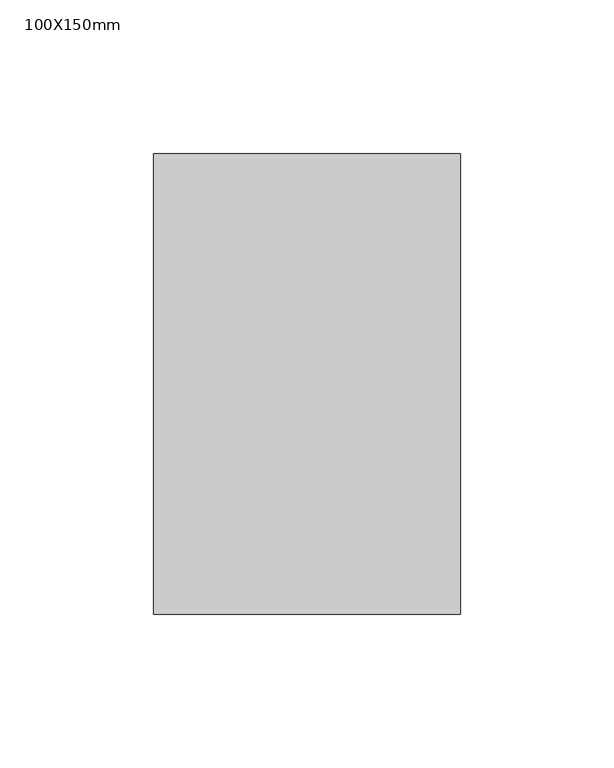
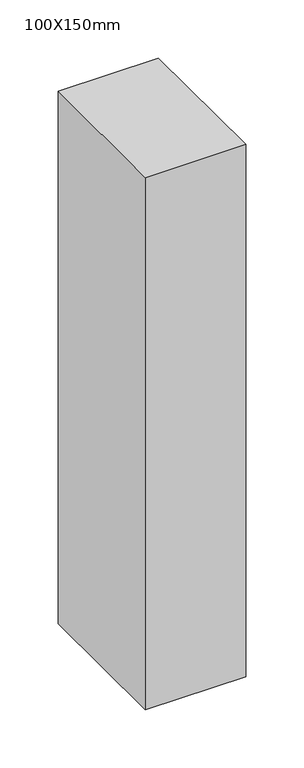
"""IFC4 building model written with IfcOpenShell, lengths in millimetres: member geometry, 矩形竖梃 : 100X150mm."""

import ifcopenshell
import ifcopenshell.guid

model = None  # the IFC model being written
_history = None  # IfcOwnerHistory: only IFC2X3 demands one
_inside = {}  # id of a spatial element -> (the spatial element, [elements in it])
_under = {}  # id of a project, library or spatial element -> (it, [spatial elements below it])
_declared = {}  # id of a project -> (the project, [libraries it declares])
_typed = {}  # id of a type object -> (the type object, [elements of that type])
_made_of = {}  # id of a material, layer set ... -> (it, [elements and type objects made of it])


def new_model(schema):
    """Start an empty IFC model of exactly this schema.

    Asked for "IFC4X3", IfcOpenShell would pick the latest addendum, in which some entities
    have other attributes; the version numbers below select the first issue.
    IFC2X3 requires an IfcOwnerHistory on every rooted entity: one is made here for all.
    """
    global model, _history
    if schema == "IFC4X3":
        model = ifcopenshell.file(schema_version=(4, 3, 0, 0))
    else:
        model = ifcopenshell.file(schema=schema)
    _inside.clear()
    _under.clear()
    _declared.clear()
    _typed.clear()
    _made_of.clear()
    _history = None
    if model.schema == "IFC2X3":
        org = make("IfcOrganization", Name="unknown")
        user = make(
            "IfcPersonAndOrganization",
            ThePerson=make("IfcPerson", FamilyName="unknown"),
            TheOrganization=org,
        )
        app = make(
            "IfcApplication",
            ApplicationDeveloper=org,
            Version="unknown",
            ApplicationFullName="unknown",
            ApplicationIdentifier="unknown",
        )
        _history = make(
            "IfcOwnerHistory",
            OwningUser=user,
            OwningApplication=app,
            ChangeAction="ADDED",
            CreationDate=0,
        )
    return model


def make(cls, **values):
    """One entity of the class cls with the attributes given. An attribute that is None is left unset."""
    return model.create_entity(
        cls, **{name: value for name, value in values.items() if value is not None}
    )


def rooted(cls, **values):
    """An entity with a GlobalId (a new one), such as an element, a storey or a relation."""
    return make(cls, GlobalId=ifcopenshell.guid.new(), OwnerHistory=_history, **values)


def si_unit(unit_type, name, prefix=None):
    """IfcSIUnit, for example si_unit("LENGTHUNIT", "METRE", prefix="MILLI")."""
    return make("IfcSIUnit", UnitType=unit_type, Prefix=prefix, Name=name)


def assignment(units):
    """IfcUnitAssignment: the units of a project."""
    return None if units is None else make("IfcUnitAssignment", Units=units)


def point(xyz):
    """IfcCartesianPoint."""
    return None if xyz is None else make("IfcCartesianPoint", Coordinates=xyz)


def direction(xyz):
    """IfcDirection."""
    return None if xyz is None else make("IfcDirection", DirectionRatios=xyz)


def frame(location, z_axis=None, x_axis=None):
    """IfcAxis2Placement3D, a coordinate frame: its origin and axes. An axis left out is left unset."""
    return make(
        "IfcAxis2Placement3D",
        Location=point(location),
        Axis=direction(z_axis),
        RefDirection=direction(x_axis),
    )


def origin():
    """The frame at (0, 0, 0) with its axes left unset."""
    return frame((0.0, 0.0, 0.0))


def place(relative_to, where):
    """IfcLocalPlacement: puts the frame where relative to a parent placement (None: the world)."""
    return make(
        "IfcLocalPlacement", PlacementRelTo=relative_to, RelativePlacement=where
    )


def context(
    kind, dimensions, precision=None, world=None, true_north=None, identifier=None
):
    """IfcGeometricRepresentationContext, for example the 3D "Model" context."""
    return make(
        "IfcGeometricRepresentationContext",
        ContextIdentifier=identifier,
        ContextType=kind,
        CoordinateSpaceDimension=dimensions,
        Precision=precision,
        WorldCoordinateSystem=world,
        TrueNorth=true_north,
    )


def project(units=None, contexts=None):
    """IfcProject with its units and contexts."""
    return rooted(
        "IfcProject",
        Name="project",
        RepresentationContexts=contexts,
        UnitsInContext=assignment(units),
    )


def spatial(cls, under=None, at=None, **own):
    """A site, building, storey or space (cls), placed at a placement, below another one or the project."""
    s = rooted(cls, ObjectPlacement=at, **own)
    if under is not None:
        _under.setdefault(under.id(), (under, []))[1].append(s)
    return s


def polyline(points):
    """IfcPolyline through the points."""
    return make("IfcPolyline", Points=[point(p) for p in points])


def outline(outer, holes=None, kind="AREA"):
    """IfcArbitraryClosedProfileDef: a profile drawn as a closed curve; with holes, ...WithVoids."""
    if holes is None:
        return make("IfcArbitraryClosedProfileDef", ProfileType=kind, OuterCurve=outer)
    return make(
        "IfcArbitraryProfileDefWithVoids",
        ProfileType=kind,
        OuterCurve=outer,
        InnerCurves=holes,
    )


def extrude(swept, where, along, depth):
    """IfcExtrudedAreaSolid: the profile swept, set in the frame where, extruded along a direction by depth."""
    return make(
        "IfcExtrudedAreaSolid",
        SweptArea=swept,
        Position=where,
        ExtrudedDirection=direction(along),
        Depth=depth,
    )


def shape(context_of_items, identifier, shape_type, items):
    """IfcShapeRepresentation: the items that make up one representation, for example the "Body"."""
    return make(
        "IfcShapeRepresentation",
        ContextOfItems=context_of_items,
        RepresentationIdentifier=identifier,
        RepresentationType=shape_type,
        Items=items,
    )


def source(mapping_origin, context_of_items, identifier, shape_type, items):
    """IfcRepresentationMap: a shape defined once, which mapped items show again and again."""
    return make(
        "IfcRepresentationMap",
        MappingOrigin=mapping_origin,
        MappedRepresentation=shape(context_of_items, identifier, shape_type, items),
    )


def transform(
    local_origin,
    x_axis=None,
    y_axis=None,
    z_axis=None,
    scale=None,
    scale2=None,
    scale3=None,
    uniform=True,
):
    """IfcCartesianTransformationOperator3D, or its non-uniform kind. x_axis, y_axis, z_axis: its Axis1, 2, 3."""
    if uniform:
        return make(
            "IfcCartesianTransformationOperator3D",
            Axis1=direction(x_axis),
            Axis2=direction(y_axis),
            LocalOrigin=point(local_origin),
            Scale=scale,
            Axis3=direction(z_axis),
        )
    return make(
        "IfcCartesianTransformationOperator3DnonUniform",
        Axis1=direction(x_axis),
        Axis2=direction(y_axis),
        LocalOrigin=point(local_origin),
        Scale=scale,
        Axis3=direction(z_axis),
        Scale2=scale2,
        Scale3=scale3,
    )


def mapped(mapping_source, mapping_target):
    """IfcMappedItem: shows the shape of a source again, moved by a transform."""
    return make(
        "IfcMappedItem", MappingSource=mapping_source, MappingTarget=mapping_target
    )


def made_of(thing, what):
    """Note that an element or type object is made of a material, layer set ...; save() writes the relation."""
    if what is not None:
        _made_of.setdefault(what.id(), (what, []))[1].append(thing)
    return thing


def element(
    cls,
    number,
    at=None,
    inside=None,
    cuts=None,
    type_object=None,
    material=None,
    context=None,
    identifier="Body",
    shape_type=None,
    held_by="IfcProductDefinitionShape",
    body=None,
    shapes=None,
    **own,
):
    """One element of the class cls, such as IfcWall. Its Tag is "e" and its number.

    at: its placement. inside: the storey or other place that contains it. cuts: it is an
    opening in that element (IfcRelVoidsElement). A single representation is given by context,
    identifier, shape_type and body (its items); several are given by shapes. held_by: the class
    of the entity that holds the representations. save() writes the other relations.
    """
    e = rooted(cls, Tag="e%d" % number, ObjectPlacement=at, **own)
    if body is not None:
        shapes = [shape(context, identifier, shape_type, body)]
    if shapes is not None:
        e.Representation = make(held_by, Representations=shapes)
    if inside is not None:
        _inside.setdefault(inside.id(), (inside, []))[1].append(e)
    if cuts is not None:
        rooted(
            "IfcRelVoidsElement", RelatingBuildingElement=cuts, RelatedOpeningElement=e
        )
    if type_object is not None:
        _typed.setdefault(type_object.id(), (type_object, []))[1].append(e)
    return made_of(e, material)


def aggregate(whole, parts):
    """IfcRelAggregates: a whole, such as a stair, and the parts it consists of."""
    return rooted("IfcRelAggregates", RelatingObject=whole, RelatedObjects=parts)


def save(model, path):
    """Write the relations noted so far, then the file.

    IfcRelAggregates (storeys below a building ...), IfcRelContainedInSpatialStructure (elements
    in a storey), IfcRelDefinesByType, IfcRelAssociatesMaterial and IfcRelDeclares: one each for
    every whole, place, type object, material and project.
    """
    for whole, parts in _under.values():
        aggregate(whole, parts)
    for where, things in _inside.values():
        rooted(
            "IfcRelContainedInSpatialStructure",
            RelatedElements=things,
            RelatingStructure=where,
        )
    for kind, things in _typed.values():
        rooted("IfcRelDefinesByType", RelatedObjects=things, RelatingType=kind)
    for what, things in _made_of.values():
        rooted("IfcRelAssociatesMaterial", RelatedObjects=things, RelatingMaterial=what)
    for by, libraries in _declared.values():
        rooted("IfcRelDeclares", RelatingContext=by, RelatedDefinitions=libraries)
    model.write(path)


def member_100x150mm_3c09ebc3(model_context):
    return source(origin(), model_context, "Body", "SweptSolid", [
        extrude(outline(polyline([(0.0, 75.0), (0.0, -75.0), (-100.0, -75.0), (-100.0, 75.0), (0.0, 75.0)])), frame((0.0, 0.0, -560.0), z_axis=(0.0, 0.0, 1.0), x_axis=(1.0, 0.0, 0.0)), (0.0, 0.0, 1.0), 560.0),
    ])


if __name__ == "__main__":
    model = new_model("IFC4")
    model_context = context("Model", 3, world=origin())
    ifc_project = project(units=[si_unit("LENGTHUNIT", "METRE", prefix="MILLI")], contexts=[model_context])
    site = spatial("IfcSite", under=ifc_project)
    building = spatial("IfcBuilding", under=site)
    placement = place(None, origin())
    member_100x150mm_shape = member_100x150mm_3c09ebc3(model_context)
    element("IfcMember", 1, ObjectType="矩形竖梃 : 100X150mm", at=placement, inside=building, context=model_context, shape_type="MappedRepresentation", body=[
        mapped(member_100x150mm_shape, transform((0.0, 0.0, 0.0), x_axis=(1.0, 0.0, 0.0), y_axis=(0.0, 1.0, 0.0), z_axis=(0.0, 0.0, 1.0))),
    ])
    save(model, "model.ifc")
